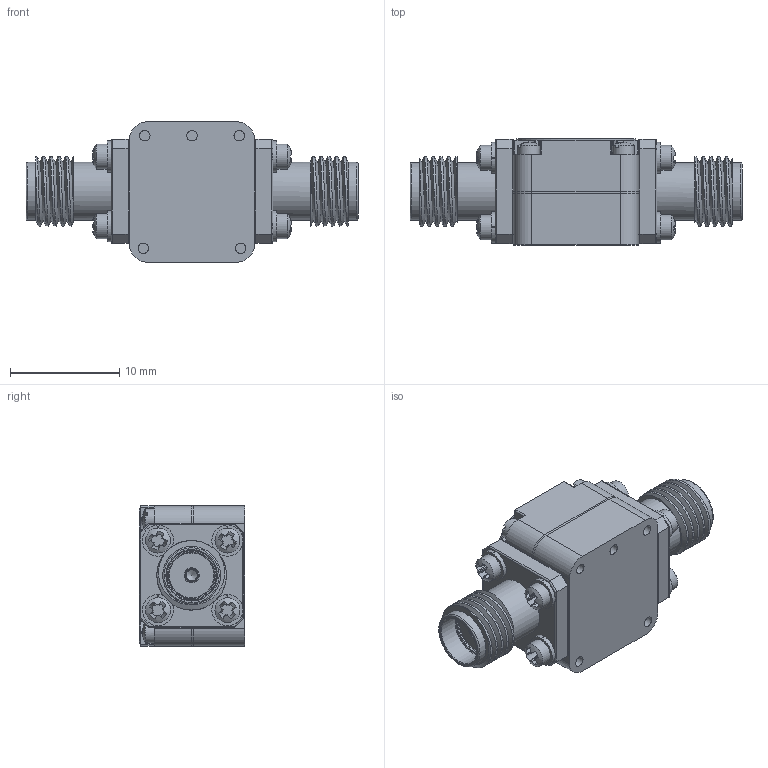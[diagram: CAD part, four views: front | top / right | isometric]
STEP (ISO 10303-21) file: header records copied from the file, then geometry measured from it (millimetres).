
FILE_DESCRIPTION (( 'STEP AP214' ), '1' );
FILE_NAME ('LPF26R5-28R5G40G.STEP', '2026-02-18T13:28:55', ( '' ), ( '' ), 'SwSTEP 2.0', 'SolidWorks 2025', '' );
FILE_SCHEMA (( 'AUTOMOTIVE_DESIGN' ));
Length unit declared in the file: inch
Products named in the file (1): LPF26R5-28R5G40G
Bounding box: 30.33 x 9.67 x 12.83 mm (x, y, z)
Volume: 1867.6 mm3; surface area: 3686.9 mm2
Topology: 37 solids, 108 shells, 1141 faces, 3396 edges, 2621 vertices
Faces by surface type: plane 664, cylinder 341, cone 64, torus 46, sphere 22, bspline 4
Full cylindrical faces by diameter (mm): 0.254 x66, 0.305 x2, 0.381 x2, 0.635 x2, 0.742 x7, 0.965 x12, 1.016 x2, 1.191 x4, 1.194 x12, 1.27 x7, 1.295 x5, 1.524 x8, 1.575 x8, 1.702 x8, 1.981 x5, 2.159 x1, 2.286 x8, 3.302 x2, 4.191 x4, 4.597 x2, 5.283 x4
Entity records: 56585 total; most frequent: CARTESIAN_POINT 12331, ORIENTED_EDGE 6044, DIRECTION 5678, EDGE_CURVE 3022, VERTEX_POINT 2498, AXIS2_PLACEMENT_3D 2056, EDGE_LOOP 1604, VECTOR 1566
